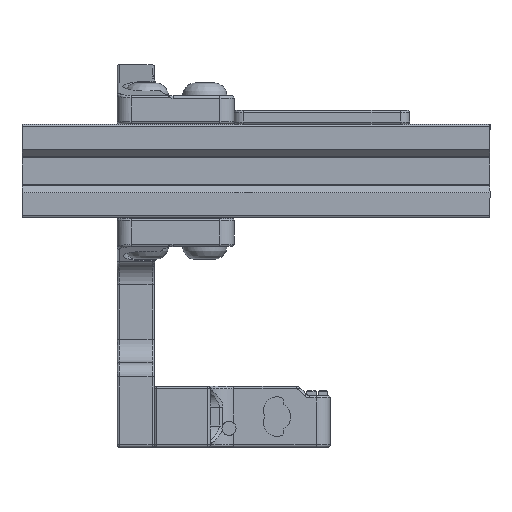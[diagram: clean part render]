
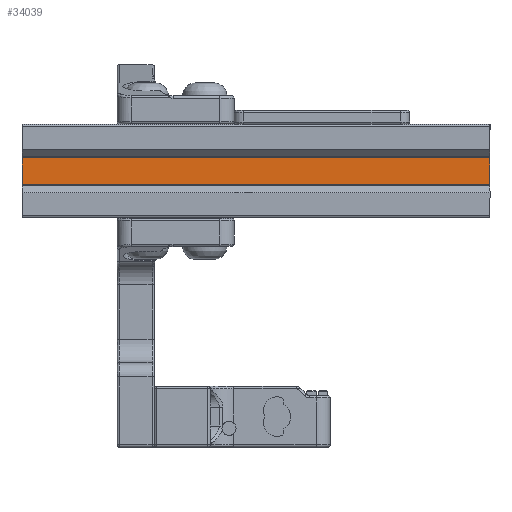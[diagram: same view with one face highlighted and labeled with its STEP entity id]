
A CAD part, front view. The second image highlights one B-rep face of the part: STEP entity #34039.
In plain terms, the highlighted planar face has unit normal (0, -1, 0).
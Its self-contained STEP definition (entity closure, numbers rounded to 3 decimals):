
#2556=PLANE('',#37336);
#4574=LINE('',#113694,#7303);
#4694=LINE('',#113945,#7423);
#4695=LINE('',#113948,#7424);
#4696=LINE('',#113949,#7425);
#7303=VECTOR('',#44371,10.);
#7423=VECTOR('',#44609,10.);
#7424=VECTOR('',#44612,10.);
#7425=VECTOR('',#44613,10.);
#10723=FACE_OUTER_BOUND('',#12803,.T.);
#12803=EDGE_LOOP('',(#30308,#30309,#30310,#30311));
#16639=VERTEX_POINT('',#113691);
#16640=VERTEX_POINT('',#113693);
#16712=VERTEX_POINT('',#113943);
#16713=VERTEX_POINT('',#113947);
#21243=EDGE_CURVE('',#16639,#16640,#4574,.T.);
#21369=EDGE_CURVE('',#16639,#16712,#4694,.T.);
#21370=EDGE_CURVE('',#16713,#16712,#4695,.F.);
#21371=EDGE_CURVE('',#16640,#16713,#4696,.T.);
#30308=ORIENTED_EDGE('',*,*,#21243,.F.);
#30309=ORIENTED_EDGE('',*,*,#21369,.T.);
#30310=ORIENTED_EDGE('',*,*,#21370,.F.);
#30311=ORIENTED_EDGE('',*,*,#21371,.F.);
#34039=ADVANCED_FACE('',(#10723),#2556,.T.);
#37336=AXIS2_PLACEMENT_3D('',#113946,#44610,#44611);
#44371=DIRECTION('',(0.,0.,1.));
#44609=DIRECTION('',(1.,0.,0.));
#44610=DIRECTION('center_axis',(0.,-1.,0.));
#44611=DIRECTION('ref_axis',(0.,0.,-1.));
#44612=DIRECTION('',(0.,0.,1.));
#44613=DIRECTION('',(1.,0.,0.));
#113691=CARTESIAN_POINT('',(-107.175,-113.923,-93.239));
#113693=CARTESIAN_POINT('',(-107.175,-113.923,-87.549));
#113694=CARTESIAN_POINT('',(-107.175,-113.923,-88.972));
#113943=CARTESIAN_POINT('',(-7.175,-113.923,-93.239));
#113945=CARTESIAN_POINT('',(-157.175,-113.923,-93.239));
#113946=CARTESIAN_POINT('Origin',(-157.175,-113.923,-87.549));
#113947=CARTESIAN_POINT('',(-7.175,-113.923,-87.549));
#113948=CARTESIAN_POINT('',(-7.175,-113.923,-88.972));
#113949=CARTESIAN_POINT('',(-157.175,-113.923,-87.549));
